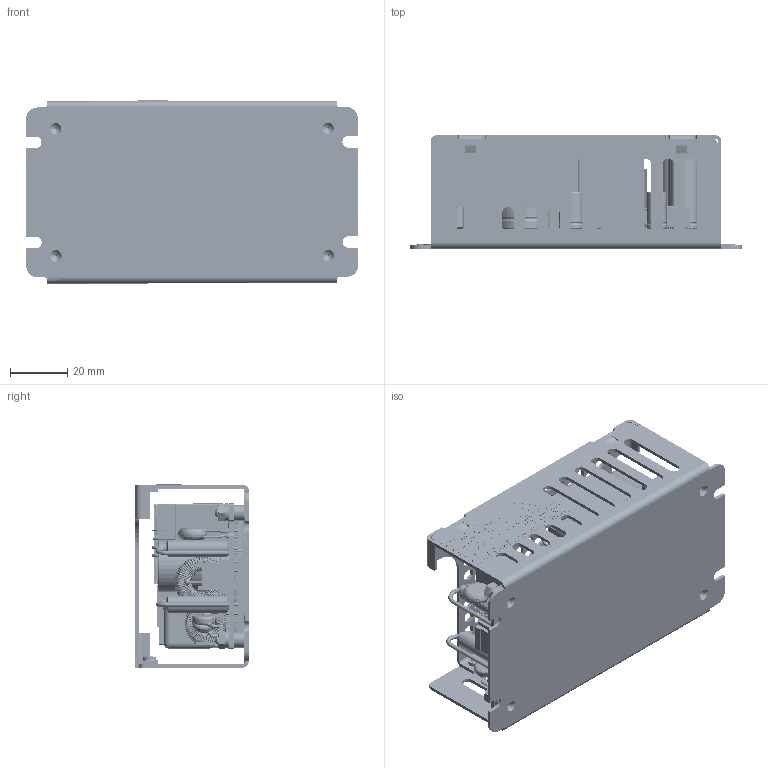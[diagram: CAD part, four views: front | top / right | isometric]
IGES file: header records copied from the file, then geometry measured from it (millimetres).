
Start section: SolidWorks IGES file using analytic representation for surfaces
Global section: file name: C:\pdm-wip\CUS-150M-A.IGS; native system: SolidWorks 2016; preprocessor: SolidWorks 2016; author: keith; date: 170608.104415; units: millimetre
Bounding box: 116.08 x 39.7 x 64.1 mm (x, y, z)
Surface area: 133075.2 mm2 (no closed solid volume)
Topology: 0 solids, 0 shells, 12956 faces, 95962 edges, 95821 vertices
Faces by surface type: bspline 10606, revolution 2350
